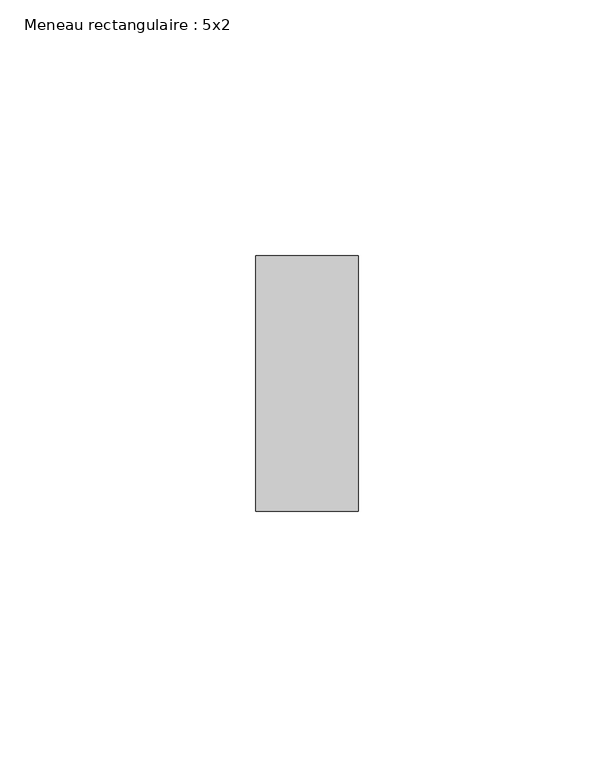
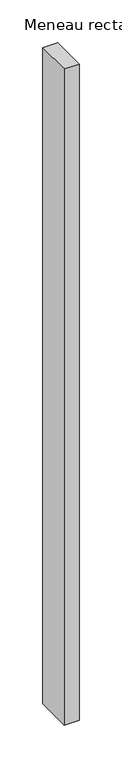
"""IFC4 building model written with IfcOpenShell, lengths in millimetres: member geometry, Meneau rectangulaire : 5x2."""

from ifc_helpers import new_model, si_unit, frame, origin, place, context, project, spatial, polyline, outline, extrude, source, transform, mapped, element, save


def meneau_rectangulaire_5x2_334aeabc(model_context):
    return source(origin(), model_context, "Body", "SweptSolid", [
        extrude(outline(polyline([(0.0, 25.0), (0.0, -25.0), (-20.0, -25.0), (-20.0, 25.0), (0.0, 25.0)])), frame((0.0, 0.0, -936.1556083), z_axis=(0.0, 0.0, 1.0), x_axis=(1.0, 0.0, 0.0)), (0.0, 0.0, 1.0), 936.1556083),
    ])


if __name__ == "__main__":
    model = new_model("IFC4")
    model_context = context("Model", 3, world=origin())
    ifc_project = project(units=[si_unit("LENGTHUNIT", "METRE", prefix="MILLI")], contexts=[model_context])
    site = spatial("IfcSite", under=ifc_project)
    building = spatial("IfcBuilding", under=site)
    placement = place(None, origin())
    meneau_rectangulaire_5x2_shape = meneau_rectangulaire_5x2_334aeabc(model_context)
    element("IfcMember", 1, ObjectType="Meneau rectangulaire : 5x2", at=placement, inside=building, context=model_context, shape_type="MappedRepresentation", body=[
        mapped(meneau_rectangulaire_5x2_shape, transform((0.0, 0.0, 0.0), x_axis=(1.0, 0.0, 0.0), y_axis=(0.0, 1.0, 0.0), z_axis=(0.0, 0.0, 1.0))),
    ])
    save(model, "model.ifc")
